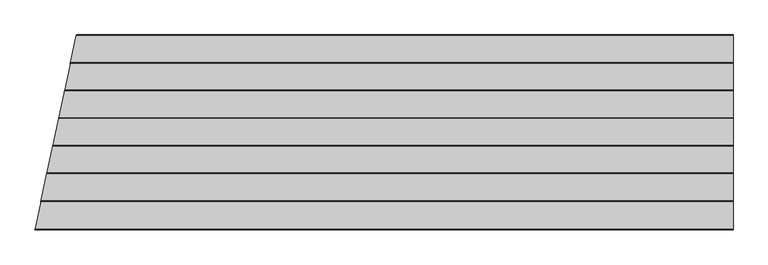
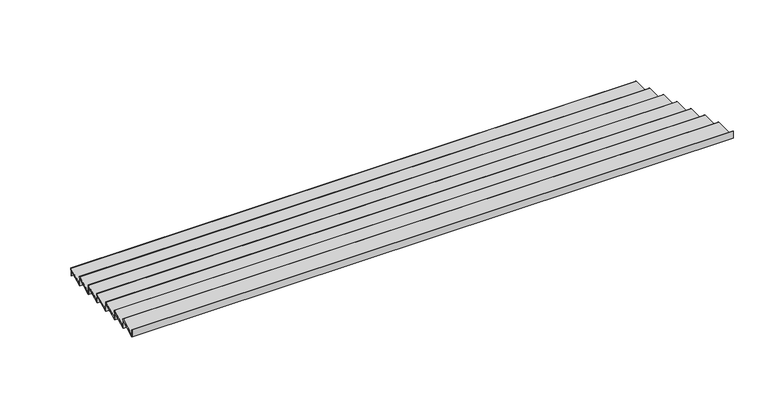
"""IFC4 building model written with IfcOpenShell, lengths in millimetres: stair flight geometry, Wood Steps with 50 mm Tread 20 mm Nosing 13 mm Riser."""

import ifcopenshell
import ifcopenshell.guid

model = None  # the IFC model being written
_history = None  # IfcOwnerHistory: only IFC2X3 demands one
_inside = {}  # id of a spatial element -> (the spatial element, [elements in it])
_under = {}  # id of a project, library or spatial element -> (it, [spatial elements below it])
_declared = {}  # id of a project -> (the project, [libraries it declares])
_typed = {}  # id of a type object -> (the type object, [elements of that type])
_made_of = {}  # id of a material, layer set ... -> (it, [elements and type objects made of it])


def new_model(schema):
    """Start an empty IFC model of exactly this schema.

    Asked for "IFC4X3", IfcOpenShell would pick the latest addendum, in which some entities
    have other attributes; the version numbers below select the first issue.
    IFC2X3 requires an IfcOwnerHistory on every rooted entity: one is made here for all.
    """
    global model, _history
    if schema == "IFC4X3":
        model = ifcopenshell.file(schema_version=(4, 3, 0, 0))
    else:
        model = ifcopenshell.file(schema=schema)
    _inside.clear()
    _under.clear()
    _declared.clear()
    _typed.clear()
    _made_of.clear()
    _history = None
    if model.schema == "IFC2X3":
        org = make("IfcOrganization", Name="unknown")
        user = make(
            "IfcPersonAndOrganization",
            ThePerson=make("IfcPerson", FamilyName="unknown"),
            TheOrganization=org,
        )
        app = make(
            "IfcApplication",
            ApplicationDeveloper=org,
            Version="unknown",
            ApplicationFullName="unknown",
            ApplicationIdentifier="unknown",
        )
        _history = make(
            "IfcOwnerHistory",
            OwningUser=user,
            OwningApplication=app,
            ChangeAction="ADDED",
            CreationDate=0,
        )
    return model


def make(cls, **values):
    """One entity of the class cls with the attributes given. An attribute that is None is left unset."""
    return model.create_entity(
        cls, **{name: value for name, value in values.items() if value is not None}
    )


def rooted(cls, **values):
    """An entity with a GlobalId (a new one), such as an element, a storey or a relation."""
    return make(cls, GlobalId=ifcopenshell.guid.new(), OwnerHistory=_history, **values)


def si_unit(unit_type, name, prefix=None):
    """IfcSIUnit, for example si_unit("LENGTHUNIT", "METRE", prefix="MILLI")."""
    return make("IfcSIUnit", UnitType=unit_type, Prefix=prefix, Name=name)


def assignment(units):
    """IfcUnitAssignment: the units of a project."""
    return None if units is None else make("IfcUnitAssignment", Units=units)


def point(xyz):
    """IfcCartesianPoint."""
    return None if xyz is None else make("IfcCartesianPoint", Coordinates=xyz)


def direction(xyz):
    """IfcDirection."""
    return None if xyz is None else make("IfcDirection", DirectionRatios=xyz)


def frame(location, z_axis=None, x_axis=None):
    """IfcAxis2Placement3D, a coordinate frame: its origin and axes. An axis left out is left unset."""
    return make(
        "IfcAxis2Placement3D",
        Location=point(location),
        Axis=direction(z_axis),
        RefDirection=direction(x_axis),
    )


def origin():
    """The frame at (0, 0, 0) with its axes left unset."""
    return frame((0.0, 0.0, 0.0))


def place(relative_to, where):
    """IfcLocalPlacement: puts the frame where relative to a parent placement (None: the world)."""
    return make(
        "IfcLocalPlacement", PlacementRelTo=relative_to, RelativePlacement=where
    )


def context(
    kind, dimensions, precision=None, world=None, true_north=None, identifier=None
):
    """IfcGeometricRepresentationContext, for example the 3D "Model" context."""
    return make(
        "IfcGeometricRepresentationContext",
        ContextIdentifier=identifier,
        ContextType=kind,
        CoordinateSpaceDimension=dimensions,
        Precision=precision,
        WorldCoordinateSystem=world,
        TrueNorth=true_north,
    )


def project(units=None, contexts=None):
    """IfcProject with its units and contexts."""
    return rooted(
        "IfcProject",
        Name="project",
        RepresentationContexts=contexts,
        UnitsInContext=assignment(units),
    )


def spatial(cls, under=None, at=None, **own):
    """A site, building, storey or space (cls), placed at a placement, below another one or the project."""
    s = rooted(cls, ObjectPlacement=at, **own)
    if under is not None:
        _under.setdefault(under.id(), (under, []))[1].append(s)
    return s


def circle_curve(where, radius):
    """IfcCircle in the frame where."""
    return make("IfcCircle", Position=where, Radius=radius)


def ellipse_curve(where, semi_axis1, semi_axis2):
    """IfcEllipse in the frame where."""
    return make(
        "IfcEllipse", Position=where, SemiAxis1=semi_axis1, SemiAxis2=semi_axis2
    )


def faces_of(points, faces, orient=None, outer=None):
    """IfcFace entities. A face is a list of loops; a loop is a list of indices into points, from 0.

    orient and outer hold one flag for each loop. By default every Orientation is true, the
    first loop of a face is its IfcFaceOuterBound and the others are IfcFaceBound.
    """
    made = []
    for i, loops in enumerate(faces):
        bounds = []
        for j, loop in enumerate(loops):
            is_outer = j == 0 if outer is None else outer[i][j]
            bounds.append(
                make(
                    "IfcFaceOuterBound" if is_outer else "IfcFaceBound",
                    Bound=make("IfcPolyLoop", Polygon=[points[k] for k in loop]),
                    Orientation=True if orient is None else orient[i][j],
                )
            )
        made.append(make("IfcFace", Bounds=bounds))
    return made


def faceted_brep(points, faces, orient=None, outer=None, voids=None):
    """IfcFacetedBrep: a solid bounded by flat faces; with voids (closed shells), ...WithVoids."""
    shared = [point(p) for p in points]
    hull = make("IfcClosedShell", CfsFaces=faces_of(shared, faces, orient, outer))
    if voids is None:
        return make("IfcFacetedBrep", Outer=hull)
    return make(
        "IfcFacetedBrepWithVoids",
        Outer=hull,
        Voids=[
            make(cls, CfsFaces=faces_of(shared, fs, o, b)) for cls, fs, o, b in voids
        ],
    )


def shape(context_of_items, identifier, shape_type, items):
    """IfcShapeRepresentation: the items that make up one representation, for example the "Body"."""
    return make(
        "IfcShapeRepresentation",
        ContextOfItems=context_of_items,
        RepresentationIdentifier=identifier,
        RepresentationType=shape_type,
        Items=items,
    )


def source(mapping_origin, context_of_items, identifier, shape_type, items):
    """IfcRepresentationMap: a shape defined once, which mapped items show again and again."""
    return make(
        "IfcRepresentationMap",
        MappingOrigin=mapping_origin,
        MappedRepresentation=shape(context_of_items, identifier, shape_type, items),
    )


def transform(
    local_origin,
    x_axis=None,
    y_axis=None,
    z_axis=None,
    scale=None,
    scale2=None,
    scale3=None,
    uniform=True,
):
    """IfcCartesianTransformationOperator3D, or its non-uniform kind. x_axis, y_axis, z_axis: its Axis1, 2, 3."""
    if uniform:
        return make(
            "IfcCartesianTransformationOperator3D",
            Axis1=direction(x_axis),
            Axis2=direction(y_axis),
            LocalOrigin=point(local_origin),
            Scale=scale,
            Axis3=direction(z_axis),
        )
    return make(
        "IfcCartesianTransformationOperator3DnonUniform",
        Axis1=direction(x_axis),
        Axis2=direction(y_axis),
        LocalOrigin=point(local_origin),
        Scale=scale,
        Axis3=direction(z_axis),
        Scale2=scale2,
        Scale3=scale3,
    )


def mapped(mapping_source, mapping_target):
    """IfcMappedItem: shows the shape of a source again, moved by a transform."""
    return make(
        "IfcMappedItem", MappingSource=mapping_source, MappingTarget=mapping_target
    )


def made_of(thing, what):
    """Note that an element or type object is made of a material, layer set ...; save() writes the relation."""
    if what is not None:
        _made_of.setdefault(what.id(), (what, []))[1].append(thing)
    return thing


def element(
    cls,
    number,
    at=None,
    inside=None,
    cuts=None,
    type_object=None,
    material=None,
    context=None,
    identifier="Body",
    shape_type=None,
    held_by="IfcProductDefinitionShape",
    body=None,
    shapes=None,
    **own,
):
    """One element of the class cls, such as IfcWall. Its Tag is "e" and its number.

    at: its placement. inside: the storey or other place that contains it. cuts: it is an
    opening in that element (IfcRelVoidsElement). A single representation is given by context,
    identifier, shape_type and body (its items); several are given by shapes. held_by: the class
    of the entity that holds the representations. save() writes the other relations.
    """
    e = rooted(cls, Tag="e%d" % number, ObjectPlacement=at, **own)
    if body is not None:
        shapes = [shape(context, identifier, shape_type, body)]
    if shapes is not None:
        e.Representation = make(held_by, Representations=shapes)
    if inside is not None:
        _inside.setdefault(inside.id(), (inside, []))[1].append(e)
    if cuts is not None:
        rooted(
            "IfcRelVoidsElement", RelatingBuildingElement=cuts, RelatedOpeningElement=e
        )
    if type_object is not None:
        _typed.setdefault(type_object.id(), (type_object, []))[1].append(e)
    return made_of(e, material)


def aggregate(whole, parts):
    """IfcRelAggregates: a whole, such as a stair, and the parts it consists of."""
    return rooted("IfcRelAggregates", RelatingObject=whole, RelatedObjects=parts)


def save(model, path):
    """Write the relations noted so far, then the file.

    IfcRelAggregates (storeys below a building ...), IfcRelContainedInSpatialStructure (elements
    in a storey), IfcRelDefinesByType, IfcRelAssociatesMaterial and IfcRelDeclares: one each for
    every whole, place, type object, material and project.
    """
    for whole, parts in _under.values():
        aggregate(whole, parts)
    for where, things in _inside.values():
        rooted(
            "IfcRelContainedInSpatialStructure",
            RelatedElements=things,
            RelatingStructure=where,
        )
    for kind, things in _typed.values():
        rooted("IfcRelDefinesByType", RelatedObjects=things, RelatingType=kind)
    for what, things in _made_of.values():
        rooted("IfcRelAssociatesMaterial", RelatedObjects=things, RelatingMaterial=what)
    for by, libraries in _declared.values():
        rooted("IfcRelDeclares", RelatingContext=by, RelatedDefinitions=libraries)
    model.write(path)


def plane_surface(at):
    """IfcPlane: the flat surface through the origin of the frame at, square to its z axis."""
    return make("IfcPlane", Position=at)


def cylinder_surface(at, radius):
    """IfcCylindricalSurface: all points at the distance radius from the z axis of the frame at."""
    return make("IfcCylindricalSurface", Position=at, Radius=radius)


def advanced_brep(points, edges, surfaces, faces):
    """IfcAdvancedBrep: a solid bounded by faces that lie on surfaces and meet in shared edges.

    An edge is (start, end): straight between two places in points (the first is 0);
    or (start, end, curve); or (start, end, curve, False) where it runs against its curve.
    A face is (place in surfaces, loops), or (place, loops, False) where it looks against
    its surface's normal. A loop lists edges by number (the first is 1), with a minus sign
    where the edge is run from its end to its start. The first loop is the outer one.
    """
    corners = [point(p) for p in points]
    vertices = [make("IfcVertexPoint", VertexGeometry=c) for c in corners]
    made = []
    for start, end, *more in edges:
        made.append(
            make(
                "IfcEdgeCurve",
                EdgeStart=vertices[start],
                EdgeEnd=vertices[end],
                EdgeGeometry=more[0] if more else make("IfcPolyline", Points=[corners[start], corners[end]]),
                SameSense=more[1] if len(more) > 1 else True,
            )
        )
    hull = []
    for where, loops, *sense in faces:
        bounds = []
        for j, loop in enumerate(loops):
            ring = [make("IfcOrientedEdge", EdgeElement=made[abs(k) - 1], Orientation=k > 0) for k in loop]
            bounds.append(
                make(
                    "IfcFaceOuterBound" if j == 0 else "IfcFaceBound",
                    Bound=make("IfcEdgeLoop", EdgeList=ring),
                    Orientation=True,
                )
            )
        hull.append(make("IfcAdvancedFace", Bounds=bounds, FaceSurface=surfaces[where], SameSense=sense[0] if sense else True))
    return make("IfcAdvancedBrep", Outer=make("IfcClosedShell", CfsFaces=hull))


def stair_flight_a2f5ee13(model_context):
    return source(origin(), model_context, "Body", "SolidModel", [
        advanced_brep(
        [(969267.9225559, 43209.4234438, 5159.2941176), (969267.9225559, 43209.4234438, 5179.2941176), (983209.4192027, 43209.4234438, 5179.2941176), (983209.4192027, 43209.4234438, 5159.2941176), (983209.4192027, 42611.0126718, 5179.2941176), (969140.5449774, 42611.0126718, 5179.2941176), (983209.4192027, 43209.4234438, 5129.2941176), (983209.4192027, 42611.0126718, 5129.2941176), (969140.5449774, 42611.0126718, 5129.2941176), (969267.9225559, 43209.4234438, 5129.2941176)],
        [
            (0, 1, ellipse_curve(frame((969267.9225559, 43209.4234438, 5169.2941176), z_axis=(0.9780872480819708, -0.2081954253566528, 0.0), x_axis=(-0.20819542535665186, -0.9780872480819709, 0.0)), 10.2240368, 10.0)),
            (1, 2),
            (2, 3, circle_curve(frame((983209.4192027, 43209.4234438, 5169.2941176), z_axis=(-1.0, 0.0, 0.0), x_axis=(0.0, -1.0, 0.0)), 10.0)),
            (3, 0),
            (4, 2),
            (1, 5),
            (5, 4),
            (6, 7),
            (7, 8),
            (8, 9),
            (9, 6),
            (4, 7),
            (6, 3),
            (9, 0),
            (8, 5),
        ],
        [
            cylinder_surface(frame((969267.9225559, 43209.4234438, 5169.2941176), z_axis=(-1.0, 0.0, 0.0), x_axis=(0.0, -1.0, 0.0)), 10.0),
            plane_surface(frame((983209.4192027, 83137.2219152, 5179.2941176), z_axis=(0.0, 0.0, 1.0), x_axis=(0.0, 1.0, 0.0))),
            plane_surface(frame((983209.4192027, 83137.2219152, 5129.2941176), z_axis=(0.0, 0.0, -1.0), x_axis=(0.0, -1.0, 0.0))),
            plane_surface(frame((983209.4192027, 42611.0126718, 5179.2941176), z_axis=(1.0, 0.0, 0.0), x_axis=(0.0, 0.0, -1.0))),
            plane_surface(frame((983209.4192027, 43209.4234438, 5179.2941176), z_axis=(0.0, 1.0, 0.0), x_axis=(0.0, 0.0, -1.0))),
            plane_surface(frame((969267.9225559, 43209.4234438, 5179.2941176), z_axis=(-0.9780872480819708, 0.2081954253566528, 0.0), x_axis=(0.0, 0.0, -1.0))),
            plane_surface(frame((969140.5449774, 42611.0126718, 5179.2941176), z_axis=(0.0, -1.0, 0.0), x_axis=(0.0, 0.0, -1.0))),
        ],
        [
            (0, [[1, 2, 3, 4]]),
            (1, [[5, -2, 6, 7]]),
            (2, [[8, 9, 10, 11]]),
            (3, [[-5, 12, -8, 13, -3]]),
            (4, [[-11, 14, -4, -13]]),
            (5, [[-6, -1, -14, -10, 15]]),
            (6, [[-7, -15, -9, -12]]),
        ],
    ),
        faceted_brep([(969265.7939582, 43199.4234438, 5129.2941176), (969265.7939582, 43199.4234438, 5000.0), (969263.1332111, 43186.9234438, 5000.0), (969263.1332111, 43186.9234438, 5129.2941176), (983209.4192027, 43199.4234438, 5129.2941176), (983209.4192027, 43186.9234438, 5129.2941176), (983209.4192027, 43186.9234438, 5000.0), (983209.4192027, 43199.4234438, 5000.0)], [[[0, 1, 2, 3]], [[4, 5, 6, 7]], [[1, 0, 4, 7]], [[2, 1, 7, 6]], [[3, 2, 6, 5]], [[0, 3, 5, 4]]]),
        faceted_brep([(969140.5449774, 42611.0126718, 5308.5882353), (969140.5449774, 42611.0126718, 5129.2941176), (969137.8842303, 42598.5126718, 5129.2941176), (969137.8842303, 42598.5126718, 5308.5882353), (983209.4192027, 42611.0126718, 5308.5882353), (983209.4192027, 42598.5126718, 5308.5882353), (983209.4192027, 42598.5126718, 5129.2941176), (983209.4192027, 42611.0126718, 5129.2941176)], [[[0, 1, 2, 3]], [[4, 5, 6, 7]], [[1, 0, 4, 7]], [[2, 1, 7, 6]], [[3, 2, 6, 5]], [[0, 3, 5, 4]]]),
        advanced_brep(
        [(983209.4192027, 42022.6018998, 5358.5882353), (983209.4192027, 42621.0126718, 5358.5882353), (969142.6735751, 42621.0126718, 5358.5882353), (969015.2959966, 42022.6018998, 5358.5882353), (983209.4192027, 42621.0126718, 5308.5882353), (983209.4192027, 42022.6018998, 5308.5882353), (969015.2959966, 42022.6018998, 5308.5882353), (969142.6735751, 42621.0126718, 5308.5882353), (983209.4192027, 42621.0126718, 5338.5882353), (969142.6735751, 42621.0126718, 5338.5882353)],
        [
            (0, 1),
            (1, 2),
            (2, 3),
            (3, 0),
            (4, 5),
            (5, 6),
            (6, 7),
            (7, 4),
            (0, 5),
            (4, 8),
            (8, 1, circle_curve(frame((983209.4192027, 42621.0126718, 5348.5882353), z_axis=(1.0, 0.0, 0.0), x_axis=(0.0, -1.0, 0.0)), 10.0)),
            (7, 9),
            (9, 8),
            (2, 9, ellipse_curve(frame((969142.6735751, 42621.0126718, 5348.5882353), z_axis=(-0.9780872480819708, 0.2081954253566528, 0.0), x_axis=(-0.20819542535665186, -0.9780872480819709, 0.0)), 10.2240368, 10.0)),
            (6, 3),
        ],
        [
            plane_surface(frame((983209.4192027, 83137.2219152, 5358.5882353), z_axis=(0.0, 0.0, 1.0), x_axis=(0.0, 1.0, 0.0))),
            plane_surface(frame((983209.4192027, 83137.2219152, 5308.5882353), z_axis=(0.0, 0.0, -1.0), x_axis=(0.0, -1.0, 0.0))),
            plane_surface(frame((983209.4192027, 42022.6018998, 5358.5882353), z_axis=(1.0, 0.0, 0.0), x_axis=(0.0, 0.0, -1.0))),
            plane_surface(frame((983209.4192027, 42621.0126718, 5358.5882353), z_axis=(0.0, 1.0, 0.0), x_axis=(0.0, 0.0, -1.0))),
            plane_surface(frame((969142.6735751, 42621.0126718, 5358.5882353), z_axis=(-0.9780872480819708, 0.2081954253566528, 0.0), x_axis=(0.0, 0.0, -1.0))),
            plane_surface(frame((969015.2959966, 42022.6018998, 5358.5882353), z_axis=(0.0, -1.0, 0.0), x_axis=(0.0, 0.0, -1.0))),
            cylinder_surface(frame((969142.6735751, 42621.0126718, 5348.5882353), z_axis=(-1.0, 0.0, 0.0), x_axis=(0.0, -1.0, 0.0)), 10.0),
        ],
        [
            (0, [[1, 2, 3, 4]]),
            (1, [[5, 6, 7, 8]]),
            (2, [[-1, 9, -5, 10, 11]]),
            (3, [[-8, 12, 13, -10]]),
            (4, [[-3, 14, -12, -7, 15]]),
            (5, [[-4, -15, -6, -9]]),
            (6, [[-14, -2, -11, -13]]),
        ],
    ),
        faceted_brep([(969015.2959966, 42022.6018998, 5487.8823529), (969015.2959966, 42022.6018998, 5308.5882353), (969012.6352495, 42010.1018998, 5308.5882353), (969012.6352495, 42010.1018998, 5487.8823529), (983209.4192027, 42022.6018998, 5487.8823529), (983209.4192027, 42010.1018998, 5487.8823529), (983209.4192027, 42010.1018998, 5308.5882353), (983209.4192027, 42022.6018998, 5308.5882353)], [[[0, 1, 2, 3]], [[4, 5, 6, 7]], [[1, 0, 4, 7]], [[2, 1, 7, 6]], [[3, 2, 6, 5]], [[0, 3, 5, 4]]]),
        advanced_brep(
        [(983209.4192027, 41434.1911278, 5537.8823529), (983209.4192027, 42032.6018998, 5537.8823529), (969017.4245943, 42032.6018998, 5537.8823529), (968890.0470158, 41434.1911278, 5537.8823529), (983209.4192027, 42032.6018998, 5487.8823529), (983209.4192027, 41434.1911278, 5487.8823529), (968890.0470158, 41434.1911278, 5487.8823529), (969017.4245943, 42032.6018998, 5487.8823529), (983209.4192027, 42032.6018998, 5517.8823529), (969017.4245943, 42032.6018998, 5517.8823529)],
        [
            (0, 1),
            (1, 2),
            (2, 3),
            (3, 0),
            (4, 5),
            (5, 6),
            (6, 7),
            (7, 4),
            (0, 5),
            (4, 8),
            (8, 1, circle_curve(frame((983209.4192027, 42032.6018998, 5527.8823529), z_axis=(1.0, 0.0, 0.0), x_axis=(0.0, -1.0, 0.0)), 10.0)),
            (7, 9),
            (9, 8),
            (2, 9, ellipse_curve(frame((969017.4245943, 42032.6018998, 5527.8823529), z_axis=(-0.9780872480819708, 0.2081954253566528, 0.0), x_axis=(-0.20819542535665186, -0.9780872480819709, 0.0)), 10.2240368, 10.0)),
            (6, 3),
        ],
        [
            plane_surface(frame((983209.4192027, 83137.2219152, 5537.8823529), z_axis=(0.0, 0.0, 1.0), x_axis=(0.0, 1.0, 0.0))),
            plane_surface(frame((983209.4192027, 83137.2219152, 5487.8823529), z_axis=(0.0, 0.0, -1.0), x_axis=(0.0, -1.0, 0.0))),
            plane_surface(frame((983209.4192027, 41434.1911278, 5537.8823529), z_axis=(1.0, 0.0, 0.0), x_axis=(0.0, 0.0, -1.0))),
            plane_surface(frame((983209.4192027, 42032.6018998, 5537.8823529), z_axis=(0.0, 1.0, 0.0), x_axis=(0.0, 0.0, -1.0))),
            plane_surface(frame((969017.4245943, 42032.6018998, 5537.8823529), z_axis=(-0.9780872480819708, 0.2081954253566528, 0.0), x_axis=(0.0, 0.0, -1.0))),
            plane_surface(frame((968890.0470158, 41434.1911278, 5537.8823529), z_axis=(0.0, -1.0, 0.0), x_axis=(0.0, 0.0, -1.0))),
            cylinder_surface(frame((969017.4245943, 42032.6018998, 5527.8823529), z_axis=(-1.0, 0.0, 0.0), x_axis=(0.0, -1.0, 0.0)), 10.0),
        ],
        [
            (0, [[1, 2, 3, 4]]),
            (1, [[5, 6, 7, 8]]),
            (2, [[-1, 9, -5, 10, 11]]),
            (3, [[-8, 12, 13, -10]]),
            (4, [[-3, 14, -12, -7, 15]]),
            (5, [[-4, -15, -6, -9]]),
            (6, [[-14, -2, -11, -13]]),
        ],
    ),
        faceted_brep([(968890.0470158, 41434.1911278, 5667.1764706), (968890.0470158, 41434.1911278, 5487.8823529), (968887.3862687, 41421.6911278, 5487.8823529), (968887.3862687, 41421.6911278, 5667.1764706), (983209.4192027, 41434.1911278, 5667.1764706), (983209.4192027, 41421.6911278, 5667.1764706), (983209.4192027, 41421.6911278, 5487.8823529), (983209.4192027, 41434.1911278, 5487.8823529)], [[[0, 1, 2, 3]], [[4, 5, 6, 7]], [[1, 0, 4, 7]], [[2, 1, 7, 6]], [[3, 2, 6, 5]], [[0, 3, 5, 4]]]),
        advanced_brep(
        [(983209.4192027, 40845.7803558, 5717.1764706), (983209.4192027, 41444.1911278, 5717.1764706), (968892.1756135, 41444.1911278, 5717.1764706), (968764.798035, 40845.7803558, 5717.1764706), (983209.4192027, 41444.1911278, 5667.1764706), (983209.4192027, 40845.7803558, 5667.1764706), (968764.798035, 40845.7803558, 5667.1764706), (968892.1756135, 41444.1911278, 5667.1764706), (983209.4192027, 41444.1911278, 5697.1764706), (968892.1756135, 41444.1911278, 5697.1764706)],
        [
            (0, 1),
            (1, 2),
            (2, 3),
            (3, 0),
            (4, 5),
            (5, 6),
            (6, 7),
            (7, 4),
            (0, 5),
            (4, 8),
            (8, 1, circle_curve(frame((983209.4192027, 41444.1911278, 5707.1764706), z_axis=(1.0, 0.0, 0.0), x_axis=(0.0, -1.0, 0.0)), 10.0)),
            (7, 9),
            (9, 8),
            (2, 9, ellipse_curve(frame((968892.1756135, 41444.1911278, 5707.1764706), z_axis=(-0.9780872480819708, 0.2081954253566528, 0.0), x_axis=(-0.20819542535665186, -0.9780872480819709, 0.0)), 10.2240368, 10.0)),
            (6, 3),
        ],
        [
            plane_surface(frame((983209.4192027, 83137.2219152, 5717.1764706), z_axis=(0.0, 0.0, 1.0), x_axis=(0.0, 1.0, 0.0))),
            plane_surface(frame((983209.4192027, 83137.2219152, 5667.1764706), z_axis=(0.0, 0.0, -1.0), x_axis=(0.0, -1.0, 0.0))),
            plane_surface(frame((983209.4192027, 40845.7803558, 5717.1764706), z_axis=(1.0, 0.0, 0.0), x_axis=(0.0, 0.0, -1.0))),
            plane_surface(frame((983209.4192027, 41444.1911278, 5717.1764706), z_axis=(0.0, 1.0, 0.0), x_axis=(0.0, 0.0, -1.0))),
            plane_surface(frame((968892.1756135, 41444.1911278, 5717.1764706), z_axis=(-0.9780872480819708, 0.2081954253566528, 0.0), x_axis=(0.0, 0.0, -1.0))),
            plane_surface(frame((968764.798035, 40845.7803558, 5717.1764706), z_axis=(0.0, -1.0, 0.0), x_axis=(0.0, 0.0, -1.0))),
            cylinder_surface(frame((968892.1756135, 41444.1911278, 5707.1764706), z_axis=(-1.0, 0.0, 0.0), x_axis=(0.0, -1.0, 0.0)), 10.0),
        ],
        [
            (0, [[1, 2, 3, 4]]),
            (1, [[5, 6, 7, 8]]),
            (2, [[-1, 9, -5, 10, 11]]),
            (3, [[-8, 12, 13, -10]]),
            (4, [[-3, 14, -12, -7, 15]]),
            (5, [[-4, -15, -6, -9]]),
            (6, [[-14, -2, -11, -13]]),
        ],
    ),
        faceted_brep([(968764.798035, 40845.7803558, 5846.4705882), (968764.798035, 40845.7803558, 5667.1764706), (968762.1372879, 40833.2803558, 5667.1764706), (968762.1372879, 40833.2803558, 5846.4705882), (983209.4192027, 40845.7803558, 5846.4705882), (983209.4192027, 40833.2803558, 5846.4705882), (983209.4192027, 40833.2803558, 5667.1764706), (983209.4192027, 40845.7803558, 5667.1764706)], [[[0, 1, 2, 3]], [[4, 5, 6, 7]], [[1, 0, 4, 7]], [[2, 1, 7, 6]], [[3, 2, 6, 5]], [[0, 3, 5, 4]]]),
        advanced_brep(
        [(983209.4192027, 40257.3695838, 5896.4705882), (983209.4192027, 40855.7803558, 5896.4705882), (968766.9266327, 40855.7803558, 5896.4705882), (968639.5490542, 40257.3695838, 5896.4705882), (983209.4192027, 40855.7803558, 5846.4705882), (983209.4192027, 40257.3695838, 5846.4705882), (968639.5490542, 40257.3695838, 5846.4705882), (968766.9266327, 40855.7803558, 5846.4705882), (983209.4192027, 40855.7803558, 5876.4705882), (968766.9266327, 40855.7803558, 5876.4705882)],
        [
            (0, 1),
            (1, 2),
            (2, 3),
            (3, 0),
            (4, 5),
            (5, 6),
            (6, 7),
            (7, 4),
            (0, 5),
            (4, 8),
            (8, 1, circle_curve(frame((983209.4192027, 40855.7803558, 5886.4705882), z_axis=(1.0, 0.0, 0.0), x_axis=(0.0, -1.0, 0.0)), 10.0)),
            (7, 9),
            (9, 8),
            (2, 9, ellipse_curve(frame((968766.9266327, 40855.7803558, 5886.4705882), z_axis=(-0.9780872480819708, 0.2081954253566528, 0.0), x_axis=(-0.20819542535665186, -0.9780872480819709, 0.0)), 10.2240368, 10.0)),
            (6, 3),
        ],
        [
            plane_surface(frame((983209.4192027, 83137.2219152, 5896.4705882), z_axis=(0.0, 0.0, 1.0), x_axis=(0.0, 1.0, 0.0))),
            plane_surface(frame((983209.4192027, 83137.2219152, 5846.4705882), z_axis=(0.0, 0.0, -1.0), x_axis=(0.0, -1.0, 0.0))),
            plane_surface(frame((983209.4192027, 40257.3695838, 5896.4705882), z_axis=(1.0, 0.0, 0.0), x_axis=(0.0, 0.0, -1.0))),
            plane_surface(frame((983209.4192027, 40855.7803558, 5896.4705882), z_axis=(0.0, 1.0, 0.0), x_axis=(0.0, 0.0, -1.0))),
            plane_surface(frame((968766.9266327, 40855.7803558, 5896.4705882), z_axis=(-0.9780872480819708, 0.2081954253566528, 0.0), x_axis=(0.0, 0.0, -1.0))),
            plane_surface(frame((968639.5490542, 40257.3695838, 5896.4705882), z_axis=(0.0, -1.0, 0.0), x_axis=(0.0, 0.0, -1.0))),
            cylinder_surface(frame((968766.9266327, 40855.7803558, 5886.4705882), z_axis=(-1.0, 0.0, 0.0), x_axis=(0.0, -1.0, 0.0)), 10.0),
        ],
        [
            (0, [[1, 2, 3, 4]]),
            (1, [[5, 6, 7, 8]]),
            (2, [[-1, 9, -5, 10, 11]]),
            (3, [[-8, 12, 13, -10]]),
            (4, [[-3, 14, -12, -7, 15]]),
            (5, [[-4, -15, -6, -9]]),
            (6, [[-14, -2, -11, -13]]),
        ],
    ),
        faceted_brep([(968639.5490542, 40257.3695838, 6025.7647059), (968639.5490542, 40257.3695838, 5846.4705882), (968636.8883071, 40244.8695838, 5846.4705882), (968636.8883071, 40244.8695838, 6025.7647059), (983209.4192027, 40257.3695838, 6025.7647059), (983209.4192027, 40244.8695838, 6025.7647059), (983209.4192027, 40244.8695838, 5846.4705882), (983209.4192027, 40257.3695838, 5846.4705882)], [[[0, 1, 2, 3]], [[4, 5, 6, 7]], [[1, 0, 4, 7]], [[2, 1, 7, 6]], [[3, 2, 6, 5]], [[0, 3, 5, 4]]]),
        advanced_brep(
        [(983209.4192027, 39668.9588119, 6075.7647059), (983209.4192027, 40267.3695838, 6075.7647059), (968641.6776519, 40267.3695838, 6075.7647059), (968514.3000734, 39668.9588119, 6075.7647059), (983209.4192027, 40267.3695838, 6025.7647059), (983209.4192027, 39668.9588119, 6025.7647059), (968514.3000734, 39668.9588119, 6025.7647059), (968641.6776519, 40267.3695838, 6025.7647059), (983209.4192027, 40267.3695838, 6055.7647059), (968641.6776519, 40267.3695838, 6055.7647059)],
        [
            (0, 1),
            (1, 2),
            (2, 3),
            (3, 0),
            (4, 5),
            (5, 6),
            (6, 7),
            (7, 4),
            (0, 5),
            (4, 8),
            (8, 1, circle_curve(frame((983209.4192027, 40267.3695838, 6065.7647059), z_axis=(1.0, 0.0, 0.0), x_axis=(0.0, -1.0, 0.0)), 10.0)),
            (7, 9),
            (9, 8),
            (2, 9, ellipse_curve(frame((968641.6776519, 40267.3695838, 6065.7647059), z_axis=(-0.9780872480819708, 0.2081954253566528, 0.0), x_axis=(-0.20819542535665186, -0.9780872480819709, 0.0)), 10.2240368, 10.0)),
            (6, 3),
        ],
        [
            plane_surface(frame((983209.4192027, 83137.2219152, 6075.7647059), z_axis=(0.0, 0.0, 1.0), x_axis=(0.0, 1.0, 0.0))),
            plane_surface(frame((983209.4192027, 83137.2219152, 6025.7647059), z_axis=(0.0, 0.0, -1.0), x_axis=(0.0, -1.0, 0.0))),
            plane_surface(frame((983209.4192027, 39668.9588119, 6075.7647059), z_axis=(1.0, 0.0, 0.0), x_axis=(0.0, 0.0, -1.0))),
            plane_surface(frame((983209.4192027, 40267.3695838, 6075.7647059), z_axis=(0.0, 1.0, 0.0), x_axis=(0.0, 0.0, -1.0))),
            plane_surface(frame((968641.6776519, 40267.3695838, 6075.7647059), z_axis=(-0.9780872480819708, 0.2081954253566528, 0.0), x_axis=(0.0, 0.0, -1.0))),
            plane_surface(frame((968514.3000734, 39668.9588119, 6075.7647059), z_axis=(0.0, -1.0, 0.0), x_axis=(0.0, 0.0, -1.0))),
            cylinder_surface(frame((968641.6776519, 40267.3695838, 6065.7647059), z_axis=(-1.0, 0.0, 0.0), x_axis=(0.0, -1.0, 0.0)), 10.0),
        ],
        [
            (0, [[1, 2, 3, 4]]),
            (1, [[5, 6, 7, 8]]),
            (2, [[-1, 9, -5, 10, 11]]),
            (3, [[-8, 12, 13, -10]]),
            (4, [[-3, 14, -12, -7, 15]]),
            (5, [[-4, -15, -6, -9]]),
            (6, [[-14, -2, -11, -13]]),
        ],
    ),
        faceted_brep([(968514.3000734, 39668.9588119, 6205.0588235), (968514.3000734, 39668.9588119, 6025.7647059), (968511.6393263, 39656.4588119, 6025.7647059), (968511.6393263, 39656.4588119, 6205.0588235), (983209.4192027, 39668.9588119, 6205.0588235), (983209.4192027, 39656.4588119, 6205.0588235), (983209.4192027, 39656.4588119, 6025.7647059), (983209.4192027, 39668.9588119, 6025.7647059)], [[[0, 1, 2, 3]], [[4, 5, 6, 7]], [[1, 0, 4, 7]], [[2, 1, 7, 6]], [[3, 2, 6, 5]], [[0, 3, 5, 4]]]),
        faceted_brep([(968389.0510926, 39080.5480399, 6384.3529412), (968389.0510926, 39080.5480399, 6205.0588235), (968386.3903455, 39068.0480399, 6205.0588235), (968386.3903455, 39068.0480399, 6384.3529412), (983209.4192027, 39080.5480399, 6384.3529412), (983209.4192027, 39068.0480399, 6384.3529412), (983209.4192027, 39068.0480399, 6205.0588235), (983209.4192027, 39080.5480399, 6205.0588235)], [[[0, 1, 2, 3]], [[4, 5, 6, 7]], [[1, 0, 4, 7]], [[2, 1, 7, 6]], [[3, 2, 6, 5]], [[0, 3, 5, 4]]]),
        advanced_brep(
        [(983209.4192027, 39080.5480399, 6255.0588235), (983209.4192027, 39678.9588119, 6255.0588235), (968516.4286711, 39678.9588119, 6255.0588235), (968389.0510926, 39080.5480399, 6255.0588235), (983209.4192027, 39678.9588119, 6205.0588235), (983209.4192027, 39080.5480399, 6205.0588235), (968389.0510926, 39080.5480399, 6205.0588235), (968516.4286711, 39678.9588119, 6205.0588235), (983209.4192027, 39678.9588119, 6235.0588235), (968516.4286711, 39678.9588119, 6235.0588235)],
        [
            (0, 1),
            (1, 2),
            (2, 3),
            (3, 0),
            (4, 5),
            (5, 6),
            (6, 7),
            (7, 4),
            (0, 5),
            (4, 8),
            (8, 1, circle_curve(frame((983209.4192027, 39678.9588119, 6245.0588235), z_axis=(1.0, 0.0, 0.0), x_axis=(0.0, -1.0, 0.0)), 10.0)),
            (7, 9),
            (9, 8),
            (2, 9, ellipse_curve(frame((968516.4286711, 39678.9588119, 6245.0588235), z_axis=(-0.9780872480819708, 0.2081954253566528, 0.0), x_axis=(-0.20819542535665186, -0.9780872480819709, 0.0)), 10.2240368, 10.0)),
            (6, 3),
        ],
        [
            plane_surface(frame((983209.4192027, 83137.2219152, 6255.0588235), z_axis=(0.0, 0.0, 1.0), x_axis=(0.0, 1.0, 0.0))),
            plane_surface(frame((983209.4192027, 83137.2219152, 6205.0588235), z_axis=(0.0, 0.0, -1.0), x_axis=(0.0, -1.0, 0.0))),
            plane_surface(frame((983209.4192027, 39080.5480399, 6255.0588235), z_axis=(1.0, 0.0, 0.0), x_axis=(0.0, 0.0, -1.0))),
            plane_surface(frame((983209.4192027, 39678.9588119, 6255.0588235), z_axis=(0.0, 1.0, 0.0), x_axis=(0.0, 0.0, -1.0))),
            plane_surface(frame((968516.4286711, 39678.9588119, 6255.0588235), z_axis=(-0.9780872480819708, 0.2081954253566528, 0.0), x_axis=(0.0, 0.0, -1.0))),
            plane_surface(frame((968389.0510926, 39080.5480399, 6255.0588235), z_axis=(0.0, -1.0, 0.0), x_axis=(0.0, 0.0, -1.0))),
            cylinder_surface(frame((968516.4286711, 39678.9588119, 6245.0588235), z_axis=(-1.0, 0.0, 0.0), x_axis=(0.0, -1.0, 0.0)), 10.0),
        ],
        [
            (0, [[1, 2, 3, 4]]),
            (1, [[5, 6, 7, 8]]),
            (2, [[-1, 9, -5, 10, 11]]),
            (3, [[-8, 12, 13, -10]]),
            (4, [[-3, 14, -12, -7, 15]]),
            (5, [[-4, -15, -6, -9]]),
            (6, [[-14, -2, -11, -13]]),
        ],
    ),
    ])


if __name__ == "__main__":
    model = new_model("IFC4")
    model_context = context("Model", 3, world=origin())
    ifc_project = project(units=[si_unit("LENGTHUNIT", "METRE", prefix="MILLI")], contexts=[model_context])
    site = spatial("IfcSite", under=ifc_project)
    building = spatial("IfcBuilding", under=site)
    placement = place(None, origin())
    stair_flight_shape = stair_flight_a2f5ee13(model_context)
    element("IfcStairFlight", 1, ObjectType="Wood Steps with 50 mm Tread 20 mm Nosing 13 mm Riser", at=placement, inside=building, context=model_context, shape_type="MappedRepresentation", body=[
        mapped(stair_flight_shape, transform((0.0, 0.0, 0.0), x_axis=(1.0, 0.0, 0.0), y_axis=(0.0, 1.0, 0.0), z_axis=(0.0, 0.0, 1.0))),
    ])
    save(model, "model.ifc")
